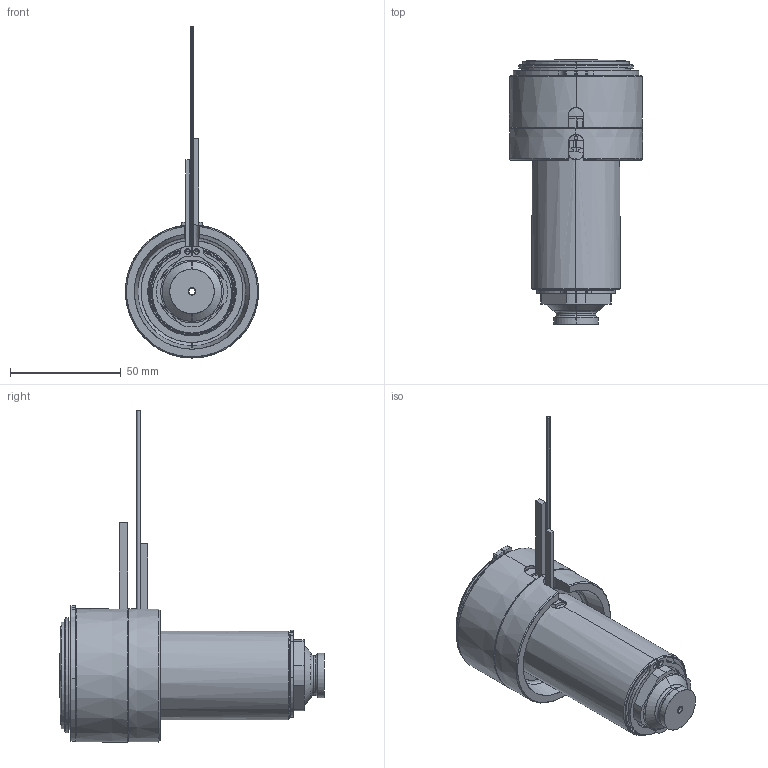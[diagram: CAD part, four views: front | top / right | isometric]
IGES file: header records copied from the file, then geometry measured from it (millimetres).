
Start section: SolidWorks IGES file using analytic representation for surfaces
Global section: file name: C:\Documents and Settings\ws-20\Desktop\TEM\UGER6603-M-A-1 [Øb-2.9 P-0 ØC-16].IGS; native system: SolidWorks 2012; preprocessor: SolidWorks 2012; author: ws-20; date: 120417.123417; units: millimetre
Bounding box: 60 x 119.25 x 149.65 mm (x, y, z)
Surface area: 68189.5 mm2 (no closed solid volume)
Topology: 0 solids, 0 shells, 167 faces, 3276 edges, 3276 vertices
Faces by surface type: revolution 98, bspline 69
